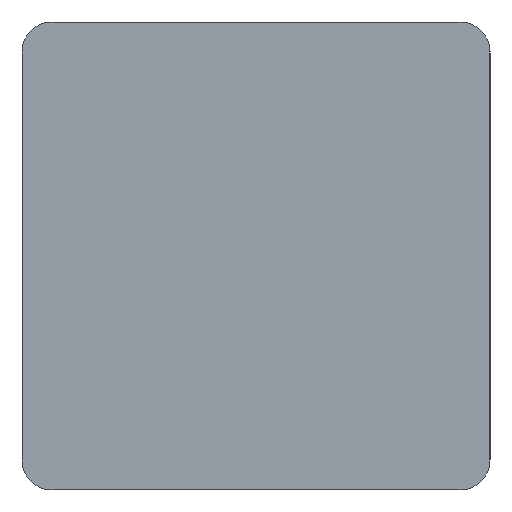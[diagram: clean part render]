
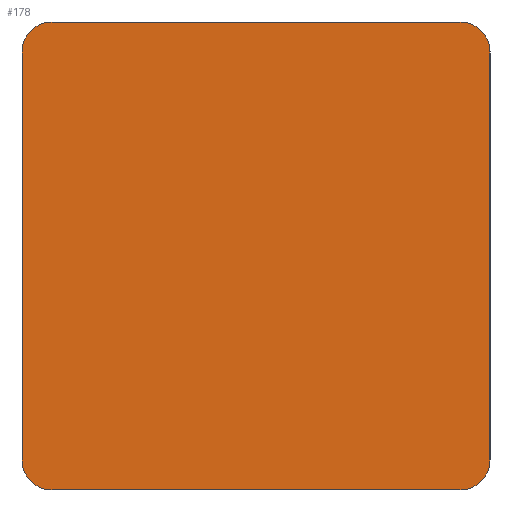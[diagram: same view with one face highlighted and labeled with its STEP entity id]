
A CAD part, left-side view. The second image highlights one B-rep face of the part: STEP entity #178.
In plain terms, the highlighted planar face has unit normal (-1, 0, 0).
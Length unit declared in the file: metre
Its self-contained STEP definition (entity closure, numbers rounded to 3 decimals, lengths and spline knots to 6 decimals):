
#16=PLANE('',#201);
#18=CIRCLE('',#186,0.00005);
#20=CIRCLE('',#190,0.00005);
#22=CIRCLE('',#194,0.00005);
#24=CIRCLE('',#198,0.00005);
#58=ORIENTED_EDGE('',*,*,#75,.F.);
#59=ORIENTED_EDGE('',*,*,#97,.T.);
#60=ORIENTED_EDGE('',*,*,#93,.F.);
#61=ORIENTED_EDGE('',*,*,#92,.T.);
#62=ORIENTED_EDGE('',*,*,#87,.F.);
#63=ORIENTED_EDGE('',*,*,#86,.T.);
#64=ORIENTED_EDGE('',*,*,#81,.F.);
#65=ORIENTED_EDGE('',*,*,#78,.F.);
#75=EDGE_CURVE('',#98,#100,#18,.F.);
#78=EDGE_CURVE('',#100,#102,#116,.T.);
#81=EDGE_CURVE('',#102,#104,#20,.F.);
#86=EDGE_CURVE('',#106,#104,#122,.T.);
#87=EDGE_CURVE('',#106,#108,#22,.F.);
#92=EDGE_CURVE('',#110,#108,#126,.F.);
#93=EDGE_CURVE('',#110,#112,#24,.F.);
#97=EDGE_CURVE('',#98,#112,#129,.F.);
#98=VERTEX_POINT('',#260);
#100=VERTEX_POINT('',#263);
#102=VERTEX_POINT('',#269);
#104=VERTEX_POINT('',#275);
#106=VERTEX_POINT('',#281);
#108=VERTEX_POINT('',#287);
#110=VERTEX_POINT('',#293);
#112=VERTEX_POINT('',#299);
#116=LINE('',#268,#132);
#122=LINE('',#284,#138);
#126=LINE('',#296,#142);
#129=LINE('',#305,#145);
#132=VECTOR('',#215,1.);
#138=VECTOR('',#229,1.);
#142=VECTOR('',#241,1.);
#145=VECTOR('',#252,1.);
#154=EDGE_LOOP('',(#58,#59,#60,#61,#62,#63,#64,#65));
#164=FACE_BOUND('',#154,.T.);
#178=ADVANCED_FACE('',(#164),#16,.F.);
#186=AXIS2_PLACEMENT_3D('',#262,#208,#209);
#190=AXIS2_PLACEMENT_3D('',#274,#220,#221);
#194=AXIS2_PLACEMENT_3D('',#286,#232,#233);
#198=AXIS2_PLACEMENT_3D('',#298,#244,#245);
#201=AXIS2_PLACEMENT_3D('',#306,#253,#254);
#208=DIRECTION('',(-1.,0.,0.));
#209=DIRECTION('',(0.,0.,1.));
#215=DIRECTION('',(0.,0.,-1.));
#220=DIRECTION('',(-1.,0.,0.));
#221=DIRECTION('',(0.,0.,1.));
#229=DIRECTION('',(0.,-1.,0.));
#232=DIRECTION('',(-1.,0.,0.));
#233=DIRECTION('',(0.,0.,1.));
#241=DIRECTION('',(0.,0.,1.));
#244=DIRECTION('',(-1.,0.,0.));
#245=DIRECTION('',(0.,0.,1.));
#252=DIRECTION('',(0.,-1.,0.));
#253=DIRECTION('',(1.,0.,0.));
#254=DIRECTION('',(0.,0.,1.));
#260=CARTESIAN_POINT('',(-0.03745,-0.00174,-0.0276));
#262=CARTESIAN_POINT('',(-0.03745,-0.00174,-0.02765));
#263=CARTESIAN_POINT('',(-0.03745,-0.00179,-0.02765));
#268=CARTESIAN_POINT('',(-0.03745,-0.00179,-0.02765));
#269=CARTESIAN_POINT('',(-0.03745,-0.00179,-0.02833));
#274=CARTESIAN_POINT('',(-0.03745,-0.00174,-0.02833));
#275=CARTESIAN_POINT('',(-0.03745,-0.00174,-0.02838));
#281=CARTESIAN_POINT('',(-0.03745,-0.00106,-0.02838));
#284=CARTESIAN_POINT('',(-0.03745,-0.0014,-0.02838));
#286=CARTESIAN_POINT('',(-0.03745,-0.00106,-0.02833));
#287=CARTESIAN_POINT('',(-0.03745,-0.00101,-0.02833));
#293=CARTESIAN_POINT('',(-0.03745,-0.00101,-0.02765));
#296=CARTESIAN_POINT('',(-0.03745,-0.00101,-0.02799));
#298=CARTESIAN_POINT('',(-0.03745,-0.00106,-0.02765));
#299=CARTESIAN_POINT('',(-0.03745,-0.00106,-0.0276));
#305=CARTESIAN_POINT('',(-0.03745,-0.0014,-0.0276));
#306=CARTESIAN_POINT('',(-0.03745,-0.0014,-0.02799));
